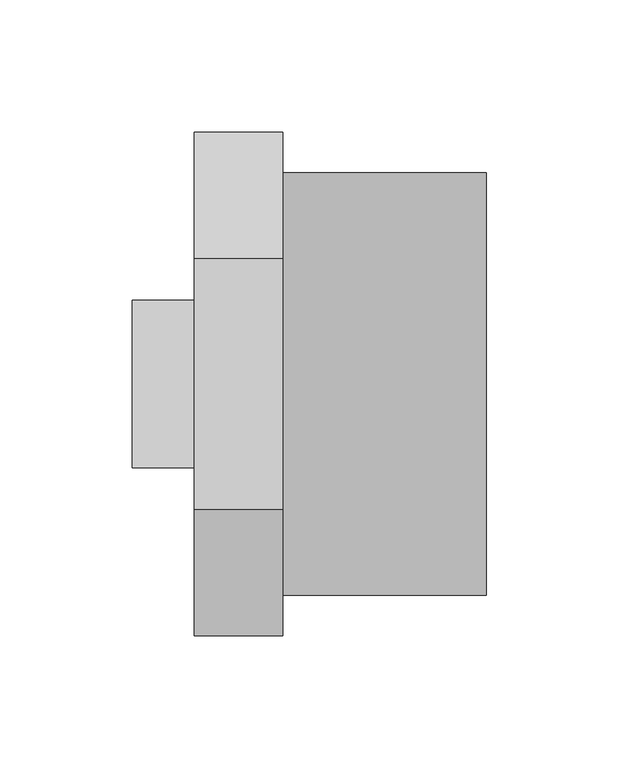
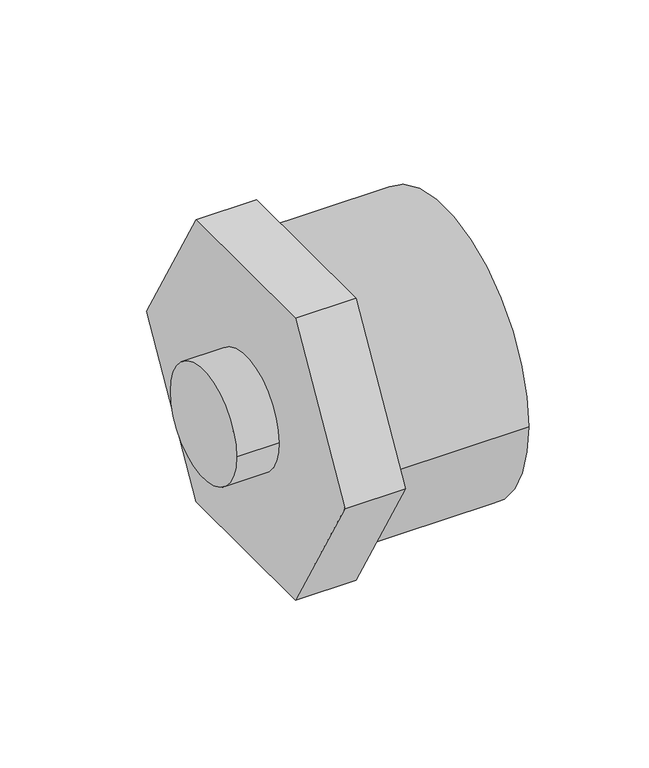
"""IFC4 building model written with IfcOpenShell, lengths in millimetres: pipe fitting geometry, 01101081 : Uniões múltiplas F/M/M."""

from ifc_helpers import new_model, si_unit, point, frame, origin, origin_2d, place, context, project, spatial, polyline, circle_curve, trimmed, segment, composite_curve, outline, extrude, source, transform, mapped, element, save


def pipe_fitting_bc3b203c(model_context):
    return source(origin(), model_context, "Body", "SweptSolid", [
        extrude(outline(composite_curve([segment(trimmed(circle_curve(origin_2d(), 31.75), [point((31.75, 0.0))], [point((-31.75, 0.0))], False, "CARTESIAN"), True, "CONTINUOUS"), segment(trimmed(circle_curve(origin_2d(), 31.75), [point((-31.75, 0.0))], [point((31.75, 0.0))], False, "CARTESIAN"), True, "CONTINUOUS")], self_intersect=False)), frame((0.0, 0.0, 0.0), z_axis=(1.0, 0.0, 0.0), x_axis=(0.0, 1.0, 0.0)), (0.0, 0.0, 1.0), 23.5),
        extrude(outline(polyline([(-47.6313972, 82.5), (47.6313972, 82.5), (95.2627944, 0.0), (47.6313972, -82.5), (-47.6313972, -82.5), (-95.2627944, 0.0), (-47.6313972, 82.5)])), frame((23.5, 0.0, 0.0), z_axis=(1.0, 0.0, 0.0), x_axis=(0.0, 1.0, 0.0)), (0.0, 0.0, 1.0), 33.5),
        extrude(outline(composite_curve([segment(trimmed(circle_curve(origin_2d(), 80.0), [point((-80.0, 0.0))], [point((80.0, 0.0))], False, "CARTESIAN"), True, "CONTINUOUS"), segment(trimmed(circle_curve(origin_2d(), 80.0), [point((80.0, 0.0))], [point((-80.0, 0.0))], False, "CARTESIAN"), True, "CONTINUOUS")], self_intersect=False)), frame((57.0, 0.0, 0.0), z_axis=(1.0, 0.0, 0.0), x_axis=(0.0, 1.0, 0.0)), (0.0, 0.0, 1.0), 77.0),
    ])


if __name__ == "__main__":
    model = new_model("IFC4")
    model_context = context("Model", 3, world=origin())
    ifc_project = project(units=[si_unit("LENGTHUNIT", "METRE", prefix="MILLI")], contexts=[model_context])
    site = spatial("IfcSite", under=ifc_project)
    building = spatial("IfcBuilding", under=site)
    placement = place(None, origin())
    pipe_fitting_shape = pipe_fitting_bc3b203c(model_context)
    element("IfcPipeFitting", 1, ObjectType="01101081 : Uniões múltiplas F/M/M", at=placement, inside=building, context=model_context, shape_type="MappedRepresentation", body=[
        mapped(pipe_fitting_shape, transform((0.0, 0.0, 0.0), x_axis=(1.0, 0.0, 0.0), y_axis=(0.0, 1.0, 0.0), z_axis=(0.0, 0.0, 1.0))),
    ])
    save(model, "model.ifc")
